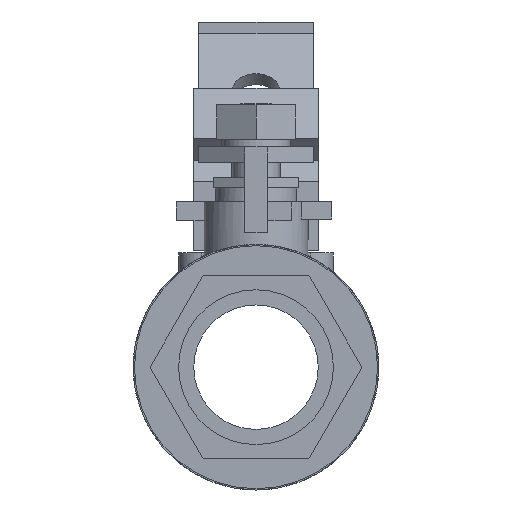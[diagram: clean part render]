
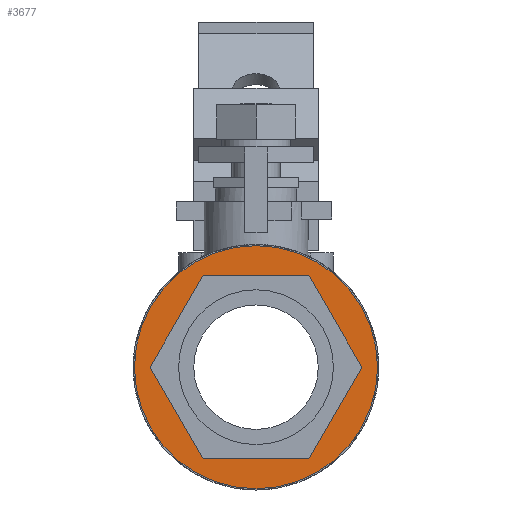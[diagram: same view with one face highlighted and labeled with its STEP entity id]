
A CAD part, left-side view. The second image highlights one B-rep face of the part: STEP entity #3677.
In plain terms, the highlighted planar face has unit normal (-1, 0, 0).
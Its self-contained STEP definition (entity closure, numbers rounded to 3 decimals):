
#3122 = EDGE_CURVE('',#3123,#3125,#3127,.T.);
#3123 = VERTEX_POINT('',#3124);
#3124 = CARTESIAN_POINT('',(0.374,-0.336,0.582));
#3125 = VERTEX_POINT('',#3126);
#3126 = CARTESIAN_POINT('',(0.374,-0.672,0.));
#3127 = SURFACE_CURVE('',#3128,(#3132,#3144),.PCURVE_S1.);
#3128 = LINE('',#3129,#3130);
#3129 = CARTESIAN_POINT('',(0.374,-0.504,0.291));
#3130 = VECTOR('',#3131,1.);
#3131 = DIRECTION('',(0.,-0.5,-0.866));
#3132 = PCURVE('',#3133,#3138);
#3133 = PLANE('',#3134);
#3134 = AXIS2_PLACEMENT_3D('',#3135,#3136,#3137);
#3135 = CARTESIAN_POINT('',(0.,-0.504,0.291));
#3136 = DIRECTION('',(0.,-0.866,0.5));
#3137 = DIRECTION('',(0.,-0.5,-0.866));
#3138 = DEFINITIONAL_REPRESENTATION('',(#3139),#3143);
#3139 = LINE('',#3140,#3141);
#3140 = CARTESIAN_POINT('',(0.,0.374));
#3141 = VECTOR('',#3142,1.);
#3142 = DIRECTION('',(1.,0.));
#3143 = ( GEOMETRIC_REPRESENTATION_CONTEXT(2) 
PARAMETRIC_REPRESENTATION_CONTEXT() REPRESENTATION_CONTEXT('2D SPACE',''
  ) );
#3144 = PCURVE('',#3145,#3150);
#3145 = PLANE('',#3146);
#3146 = AXIS2_PLACEMENT_3D('',#3147,#3148,#3149);
#3147 = CARTESIAN_POINT('',(0.374,0.,
    0.));
#3148 = DIRECTION('',(-1.,0.,0.));
#3149 = DIRECTION('',(0.,0.,1.));
#3150 = DEFINITIONAL_REPRESENTATION('',(#3151),#3155);
#3151 = LINE('',#3152,#3153);
#3152 = CARTESIAN_POINT('',(0.291,-0.504));
#3153 = VECTOR('',#3154,1.);
#3154 = DIRECTION('',(-0.866,-0.5));
#3155 = ( GEOMETRIC_REPRESENTATION_CONTEXT(2) 
PARAMETRIC_REPRESENTATION_CONTEXT() REPRESENTATION_CONTEXT('2D SPACE',''
  ) );
#3173 = PLANE('',#3174);
#3174 = AXIS2_PLACEMENT_3D('',#3175,#3176,#3177);
#3175 = CARTESIAN_POINT('',(0.,0.,0.582));
#3176 = DIRECTION('',(0.,0.,1.));
#3177 = DIRECTION('',(0.,-1.,0.));
#3222 = PLANE('',#3223);
#3223 = AXIS2_PLACEMENT_3D('',#3224,#3225,#3226);
#3224 = CARTESIAN_POINT('',(0.,-0.504,-0.291));
#3225 = DIRECTION('',(0.,-0.866,-0.5));
#3226 = DIRECTION('',(0.,0.5,-0.866));
#3237 = EDGE_CURVE('',#3238,#3123,#3240,.T.);
#3238 = VERTEX_POINT('',#3239);
#3239 = CARTESIAN_POINT('',(0.374,0.336,0.582));
#3240 = SURFACE_CURVE('',#3241,(#3245,#3252),.PCURVE_S1.);
#3241 = LINE('',#3242,#3243);
#3242 = CARTESIAN_POINT('',(0.374,0.,0.582));
#3243 = VECTOR('',#3244,1.);
#3244 = DIRECTION('',(0.,-1.,0.));
#3245 = PCURVE('',#3173,#3246);
#3246 = DEFINITIONAL_REPRESENTATION('',(#3247),#3251);
#3247 = LINE('',#3248,#3249);
#3248 = CARTESIAN_POINT('',(0.,0.374));
#3249 = VECTOR('',#3250,1.);
#3250 = DIRECTION('',(1.,0.));
#3251 = ( GEOMETRIC_REPRESENTATION_CONTEXT(2) 
PARAMETRIC_REPRESENTATION_CONTEXT() REPRESENTATION_CONTEXT('2D SPACE',''
  ) );
#3252 = PCURVE('',#3145,#3253);
#3253 = DEFINITIONAL_REPRESENTATION('',(#3254),#3258);
#3254 = LINE('',#3255,#3256);
#3255 = CARTESIAN_POINT('',(0.582,0.));
#3256 = VECTOR('',#3257,1.);
#3257 = DIRECTION('',(0.,-1.));
#3258 = ( GEOMETRIC_REPRESENTATION_CONTEXT(2) 
PARAMETRIC_REPRESENTATION_CONTEXT() REPRESENTATION_CONTEXT('2D SPACE',''
  ) );
#3276 = PLANE('',#3277);
#3277 = AXIS2_PLACEMENT_3D('',#3278,#3279,#3280);
#3278 = CARTESIAN_POINT('',(0.,0.504,0.291));
#3279 = DIRECTION('',(0.,0.866,0.5));
#3280 = DIRECTION('',(0.,-0.5,0.866));
#3313 = EDGE_CURVE('',#3314,#3238,#3316,.T.);
#3314 = VERTEX_POINT('',#3315);
#3315 = CARTESIAN_POINT('',(0.374,0.672,0.));
#3316 = SURFACE_CURVE('',#3317,(#3321,#3328),.PCURVE_S1.);
#3317 = LINE('',#3318,#3319);
#3318 = CARTESIAN_POINT('',(0.374,0.504,0.291));
#3319 = VECTOR('',#3320,1.);
#3320 = DIRECTION('',(0.,-0.5,0.866));
#3321 = PCURVE('',#3276,#3322);
#3322 = DEFINITIONAL_REPRESENTATION('',(#3323),#3327);
#3323 = LINE('',#3324,#3325);
#3324 = CARTESIAN_POINT('',(0.,0.374));
#3325 = VECTOR('',#3326,1.);
#3326 = DIRECTION('',(1.,0.));
#3327 = ( GEOMETRIC_REPRESENTATION_CONTEXT(2) 
PARAMETRIC_REPRESENTATION_CONTEXT() REPRESENTATION_CONTEXT('2D SPACE',''
  ) );
#3328 = PCURVE('',#3145,#3329);
#3329 = DEFINITIONAL_REPRESENTATION('',(#3330),#3334);
#3330 = LINE('',#3331,#3332);
#3331 = CARTESIAN_POINT('',(0.291,0.504));
#3332 = VECTOR('',#3333,1.);
#3333 = DIRECTION('',(0.866,-0.5));
#3334 = ( GEOMETRIC_REPRESENTATION_CONTEXT(2) 
PARAMETRIC_REPRESENTATION_CONTEXT() REPRESENTATION_CONTEXT('2D SPACE',''
  ) );
#3352 = PLANE('',#3353);
#3353 = AXIS2_PLACEMENT_3D('',#3354,#3355,#3356);
#3354 = CARTESIAN_POINT('',(0.,0.504,-0.291));
#3355 = DIRECTION('',(0.,0.866,-0.5));
#3356 = DIRECTION('',(0.,0.5,0.866));
#3389 = EDGE_CURVE('',#3390,#3314,#3392,.T.);
#3390 = VERTEX_POINT('',#3391);
#3391 = CARTESIAN_POINT('',(0.374,0.336,-0.582));
#3392 = SURFACE_CURVE('',#3393,(#3397,#3404),.PCURVE_S1.);
#3393 = LINE('',#3394,#3395);
#3394 = CARTESIAN_POINT('',(0.374,0.504,-0.291));
#3395 = VECTOR('',#3396,1.);
#3396 = DIRECTION('',(0.,0.5,0.866));
#3397 = PCURVE('',#3352,#3398);
#3398 = DEFINITIONAL_REPRESENTATION('',(#3399),#3403);
#3399 = LINE('',#3400,#3401);
#3400 = CARTESIAN_POINT('',(0.,0.374));
#3401 = VECTOR('',#3402,1.);
#3402 = DIRECTION('',(1.,0.));
#3403 = ( GEOMETRIC_REPRESENTATION_CONTEXT(2) 
PARAMETRIC_REPRESENTATION_CONTEXT() REPRESENTATION_CONTEXT('2D SPACE',''
  ) );
#3404 = PCURVE('',#3145,#3405);
#3405 = DEFINITIONAL_REPRESENTATION('',(#3406),#3410);
#3406 = LINE('',#3407,#3408);
#3407 = CARTESIAN_POINT('',(-0.291,0.504));
#3408 = VECTOR('',#3409,1.);
#3409 = DIRECTION('',(0.866,0.5));
#3410 = ( GEOMETRIC_REPRESENTATION_CONTEXT(2) 
PARAMETRIC_REPRESENTATION_CONTEXT() REPRESENTATION_CONTEXT('2D SPACE',''
  ) );
#3428 = PLANE('',#3429);
#3429 = AXIS2_PLACEMENT_3D('',#3430,#3431,#3432);
#3430 = CARTESIAN_POINT('',(0.,0.,-0.582));
#3431 = DIRECTION('',(0.,0.,-1.));
#3432 = DIRECTION('',(0.,1.,0.));
#3465 = EDGE_CURVE('',#3466,#3390,#3468,.T.);
#3466 = VERTEX_POINT('',#3467);
#3467 = CARTESIAN_POINT('',(0.374,-0.336,-0.582));
#3468 = SURFACE_CURVE('',#3469,(#3473,#3480),.PCURVE_S1.);
#3469 = LINE('',#3470,#3471);
#3470 = CARTESIAN_POINT('',(0.374,0.,-0.582));
#3471 = VECTOR('',#3472,1.);
#3472 = DIRECTION('',(0.,1.,0.));
#3473 = PCURVE('',#3428,#3474);
#3474 = DEFINITIONAL_REPRESENTATION('',(#3475),#3479);
#3475 = LINE('',#3476,#3477);
#3476 = CARTESIAN_POINT('',(0.,0.374));
#3477 = VECTOR('',#3478,1.);
#3478 = DIRECTION('',(1.,0.));
#3479 = ( GEOMETRIC_REPRESENTATION_CONTEXT(2) 
PARAMETRIC_REPRESENTATION_CONTEXT() REPRESENTATION_CONTEXT('2D SPACE',''
  ) );
#3480 = PCURVE('',#3145,#3481);
#3481 = DEFINITIONAL_REPRESENTATION('',(#3482),#3486);
#3482 = LINE('',#3483,#3484);
#3483 = CARTESIAN_POINT('',(-0.582,0.));
#3484 = VECTOR('',#3485,1.);
#3485 = DIRECTION('',(0.,1.));
#3486 = ( GEOMETRIC_REPRESENTATION_CONTEXT(2) 
PARAMETRIC_REPRESENTATION_CONTEXT() REPRESENTATION_CONTEXT('2D SPACE',''
  ) );
#3536 = EDGE_CURVE('',#3125,#3466,#3537,.T.);
#3537 = SURFACE_CURVE('',#3538,(#3542,#3549),.PCURVE_S1.);
#3538 = LINE('',#3539,#3540);
#3539 = CARTESIAN_POINT('',(0.374,-0.504,-0.291));
#3540 = VECTOR('',#3541,1.);
#3541 = DIRECTION('',(0.,0.5,-0.866));
#3542 = PCURVE('',#3222,#3543);
#3543 = DEFINITIONAL_REPRESENTATION('',(#3544),#3548);
#3544 = LINE('',#3545,#3546);
#3545 = CARTESIAN_POINT('',(0.,0.374));
#3546 = VECTOR('',#3547,1.);
#3547 = DIRECTION('',(1.,0.));
#3548 = ( GEOMETRIC_REPRESENTATION_CONTEXT(2) 
PARAMETRIC_REPRESENTATION_CONTEXT() REPRESENTATION_CONTEXT('2D SPACE',''
  ) );
#3549 = PCURVE('',#3145,#3550);
#3550 = DEFINITIONAL_REPRESENTATION('',(#3551),#3555);
#3551 = LINE('',#3552,#3553);
#3552 = CARTESIAN_POINT('',(-0.291,-0.504));
#3553 = VECTOR('',#3554,1.);
#3554 = DIRECTION('',(-0.866,0.5));
#3555 = ( GEOMETRIC_REPRESENTATION_CONTEXT(2) 
PARAMETRIC_REPRESENTATION_CONTEXT() REPRESENTATION_CONTEXT('2D SPACE',''
  ) );
#3605 = CYLINDRICAL_SURFACE('',#3606,0.771);
#3606 = AXIS2_PLACEMENT_3D('',#3607,#3608,#3609);
#3607 = CARTESIAN_POINT('',(0.374,0.,
    0.));
#3608 = DIRECTION('',(1.,0.,0.));
#3609 = DIRECTION('',(0.,-1.,0.));
#3634 = VERTEX_POINT('',#3635);
#3635 = CARTESIAN_POINT('',(0.374,-0.771,0.));
#3655 = EDGE_CURVE('',#3634,#3634,#3656,.T.);
#3656 = SURFACE_CURVE('',#3657,(#3662,#3669),.PCURVE_S1.);
#3657 = CIRCLE('',#3658,0.771);
#3658 = AXIS2_PLACEMENT_3D('',#3659,#3660,#3661);
#3659 = CARTESIAN_POINT('',(0.374,0.,
    0.));
#3660 = DIRECTION('',(-1.,0.,0.));
#3661 = DIRECTION('',(0.,-1.,0.));
#3662 = PCURVE('',#3605,#3663);
#3663 = DEFINITIONAL_REPRESENTATION('',(#3664),#3668);
#3664 = LINE('',#3665,#3666);
#3665 = CARTESIAN_POINT('',(6.283,0.));
#3666 = VECTOR('',#3667,1.);
#3667 = DIRECTION('',(-1.,0.));
#3668 = ( GEOMETRIC_REPRESENTATION_CONTEXT(2) 
PARAMETRIC_REPRESENTATION_CONTEXT() REPRESENTATION_CONTEXT('2D SPACE',''
  ) );
#3669 = PCURVE('',#3145,#3670);
#3670 = DEFINITIONAL_REPRESENTATION('',(#3671),#3675);
#3671 = CIRCLE('',#3672,0.771);
#3672 = AXIS2_PLACEMENT_2D('',#3673,#3674);
#3673 = CARTESIAN_POINT('',(0.,0.));
#3674 = DIRECTION('',(0.,-1.));
#3675 = ( GEOMETRIC_REPRESENTATION_CONTEXT(2) 
PARAMETRIC_REPRESENTATION_CONTEXT() REPRESENTATION_CONTEXT('2D SPACE',''
  ) );
#3677 = ADVANCED_FACE('',(#3678,#3686),#3145,.T.);
#3678 = FACE_BOUND('',#3679,.T.);
#3679 = EDGE_LOOP('',(#3680,#3681,#3682,#3683,#3684,#3685));
#3680 = ORIENTED_EDGE('',*,*,#3122,.T.);
#3681 = ORIENTED_EDGE('',*,*,#3536,.T.);
#3682 = ORIENTED_EDGE('',*,*,#3465,.T.);
#3683 = ORIENTED_EDGE('',*,*,#3389,.T.);
#3684 = ORIENTED_EDGE('',*,*,#3313,.T.);
#3685 = ORIENTED_EDGE('',*,*,#3237,.T.);
#3686 = FACE_BOUND('',#3687,.T.);
#3687 = EDGE_LOOP('',(#3688));
#3688 = ORIENTED_EDGE('',*,*,#3655,.T.);
